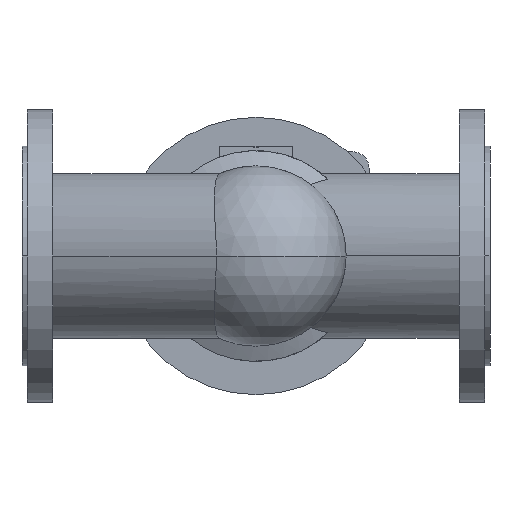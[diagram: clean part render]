
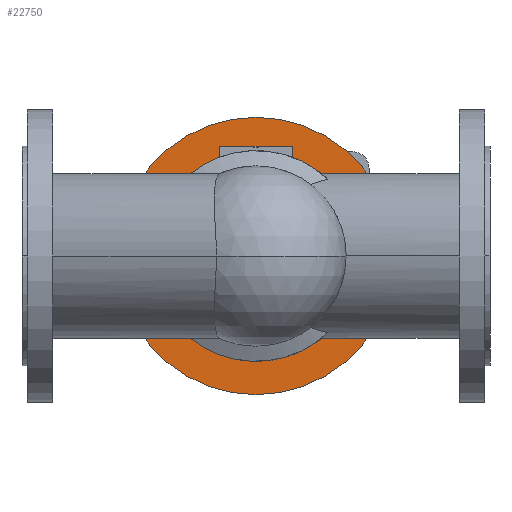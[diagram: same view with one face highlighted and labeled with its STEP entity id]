
A CAD part, front view. The second image highlights one B-rep face of the part: STEP entity #22750.
In plain terms, the highlighted planar face has unit normal (0, -1, 0).
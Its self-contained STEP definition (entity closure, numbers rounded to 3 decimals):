
#1340=CARTESIAN_POINT('',(318.5,114.2,0.));
#1350=VERTEX_POINT('',#1340);
#1400=CARTESIAN_POINT('',(200.,114.2,0.));
#1410=DIRECTION('',(0.,-1.,0.));
#1420=DIRECTION('',(-1.,0.,0.));
#1430=AXIS2_PLACEMENT_3D('',#1400,#1410,#1420);
#1440=CIRCLE('',#1430,118.5);
#1450=CARTESIAN_POINT('',(81.5,114.2,0.));
#1460=VERTEX_POINT('',#1450);
#1470=EDGE_CURVE('',#1350,#1460,#1440,.T.);
#1780=CARTESIAN_POINT('',(290.,114.2,0.));
#1790=VERTEX_POINT('',#1780);
#3290=CARTESIAN_POINT('',(110.,114.2,0.));
#3300=VERTEX_POINT('',#3290);
#3330=CARTESIAN_POINT('',(200.,114.2,0.));
#3340=DIRECTION('',(0.,-1.,0.));
#3350=DIRECTION('',(-1.,0.,0.));
#3360=AXIS2_PLACEMENT_3D('',#3330,#3340,#3350);
#3370=CIRCLE('',#3360,90.);
#3380=EDGE_CURVE('',#1790,#3300,#3370,.T.);
#22600=CARTESIAN_POINT('',(95.75,114.2,0.));
#22610=DIRECTION('',(0.,-1.,0.));
#22620=DIRECTION('',(-1.,0.,0.));
#22630=AXIS2_PLACEMENT_3D('',#22600,#22610,#22620);
#22640=PLANE('',#22630);
#22650=EDGE_CURVE('',#3300,#1790,#3370,.T.);
#22660=ORIENTED_EDGE('',*,*,#22650,.F.);
#22670=ORIENTED_EDGE('',*,*,#3380,.F.);
#22680=EDGE_LOOP('',(#22670,#22660));
#22690=FACE_BOUND('',#22680,.T.);
#22700=EDGE_CURVE('',#1460,#1350,#1440,.T.);
#22710=ORIENTED_EDGE('',*,*,#22700,.T.);
#22720=ORIENTED_EDGE('',*,*,#1470,.T.);
#22730=EDGE_LOOP('',(#22720,#22710));
#22740=FACE_OUTER_BOUND('',#22730,.T.);
#22750=ADVANCED_FACE('',(#22690,#22740),#22640,.T.);
